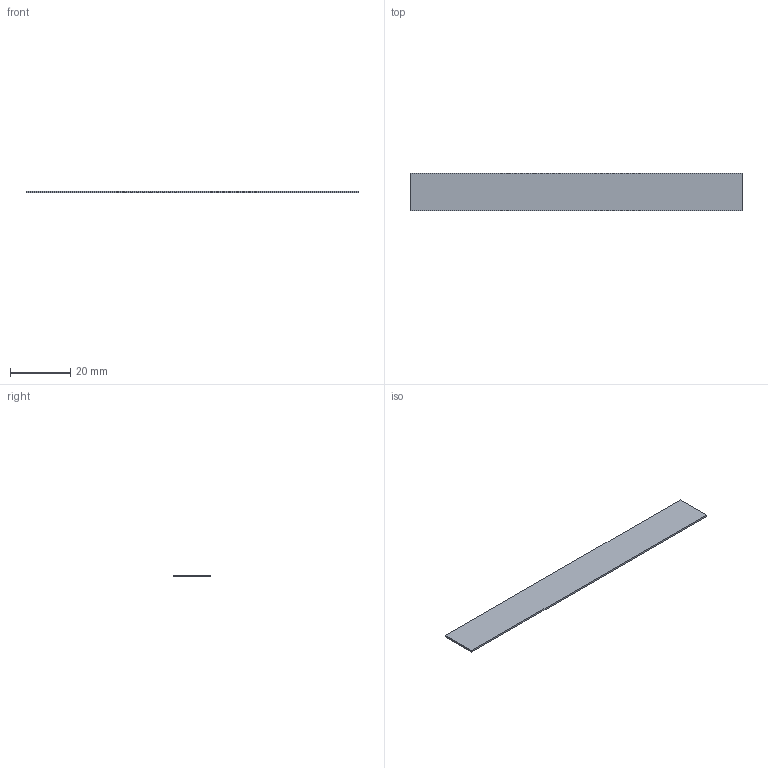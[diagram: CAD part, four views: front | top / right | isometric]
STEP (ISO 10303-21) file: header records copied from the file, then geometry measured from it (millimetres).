
FILE_DESCRIPTION(('Open CASCADE Model'),'2;1');
FILE_NAME('Open CASCADE Shape Model','2026-10-21T18:51:10',('Author'),( 'Open CASCADE'),'Open CASCADE STEP processor 8.0','build123d', 'Unknown');
FILE_SCHEMA(('AUTOMOTIVE_DESIGN { 1 0 10303 214 1 1 1 1 }'));
Length unit declared in the file: millimetre
Products named in the file (2): =>[0:1:1:2]; COMPOUND
Assembly tree (1 placements, depth 2):
  =>[0:1:1:2]
    COMPOUND
Bounding box: 109.85 x 12.3 x 0.6 mm (x, y, z)
Volume: 810.7 mm3; surface area: 2848.9 mm2
Topology: 1 solids, 1 shells, 6 faces, 12 edges, 8 vertices
Faces by surface type: plane 6
Entity records: 340 total; most frequent: CARTESIAN_POINT 52, DIRECTION 52, LINE 36, VECTOR 36, ORIENTED_EDGE 24, PCURVE 24, DEFINITIONAL_REPRESENTATION 24, EDGE_CURVE 12
